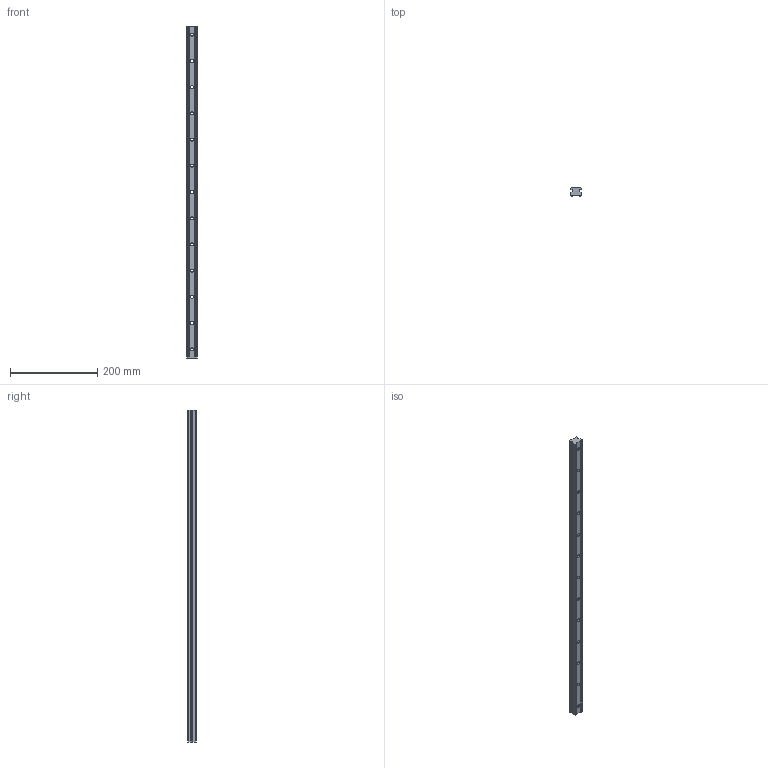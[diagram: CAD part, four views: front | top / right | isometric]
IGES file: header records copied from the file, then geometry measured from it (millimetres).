
Start section: SolidWorks IGES file using analytic representation for surfaces
Global section: file name: C:\Users\IanO\Desktop\L1016_v2\L1016.BL25_v2\L1016.BL25_v2_20160611_IGES\L1016.BL25-0760.igs; native system: SolidWorks 2017; preprocessor: SolidWorks 2017; author: IanO; date: 190612.130546; units: millimetre
Bounding box: 23 x 19.2 x 760 mm (x, y, z)
Surface area: 72592.8 mm2 (no closed solid volume)
Topology: 0 solids, 0 shells, 91 faces, 2040 edges, 2040 vertices
Faces by surface type: revolution 56, bspline 35
